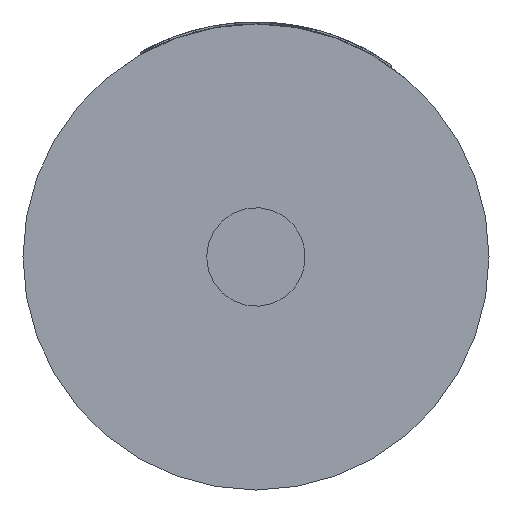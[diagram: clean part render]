
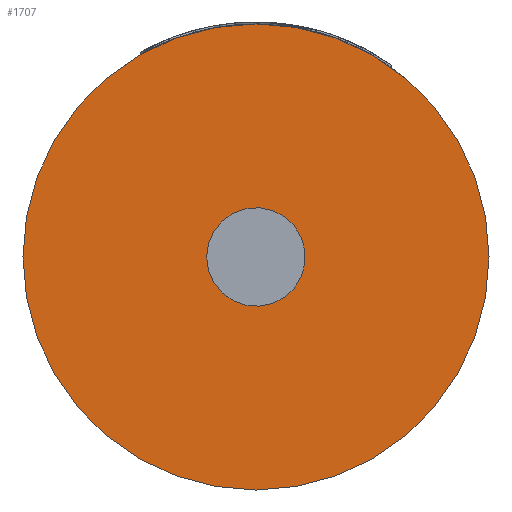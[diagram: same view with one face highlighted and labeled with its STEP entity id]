
A CAD part, left-side view. The second image highlights one B-rep face of the part: STEP entity #1707.
In plain terms, the highlighted planar face has unit normal (-1, 0, 0).
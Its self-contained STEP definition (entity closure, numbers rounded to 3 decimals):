
#13=FACE_BOUND($,#291,.T.);
#113=PLANE($,#1832);
#201=FACE_OUTER_BOUND($,#290,.T.);
#290=EDGE_LOOP($,(#1440));
#291=EDGE_LOOP($,(#1441));
#651=CIRCLE($,#1833,1.205);
#652=CIRCLE($,#1834,0.255);
#811=VERTEX_POINT($,#3334);
#812=VERTEX_POINT($,#3336);
#1048=EDGE_CURVE($,#811,#811,#651,.T.);
#1049=EDGE_CURVE($,#812,#812,#652,.T.);
#1440=ORIENTED_EDGE($,*,*,#1048,.F.);
#1441=ORIENTED_EDGE($,*,*,#1049,.T.);
#1707=ADVANCED_FACE($,(#201,#13),#113,.T.);
#1832=AXIS2_PLACEMENT_3D($,#3333,#2200,#2201);
#1833=AXIS2_PLACEMENT_3D($,#3335,#2202,#2203);
#1834=AXIS2_PLACEMENT_3D($,#3337,#2204,#2205);
#2200=DIRECTION('center_axis',(-1.,0.,0.));
#2201=DIRECTION('ref_axis',(0.,0.,1.));
#2202=DIRECTION('center_axis',(1.,0.,0.));
#2203=DIRECTION('ref_axis',(0.,1.,0.));
#2204=DIRECTION('center_axis',(1.,0.,0.));
#2205=DIRECTION('ref_axis',(0.,1.,0.));
#3333=CARTESIAN_POINT('Origin',(-3.475,1.348,0.));
#3334=CARTESIAN_POINT('',(-3.475,1.95,0.));
#3335=CARTESIAN_POINT('Origin',(-3.475,0.745,0.));
#3336=CARTESIAN_POINT('',(-3.475,1.,0.));
#3337=CARTESIAN_POINT('Origin',(-3.475,0.745,0.));
